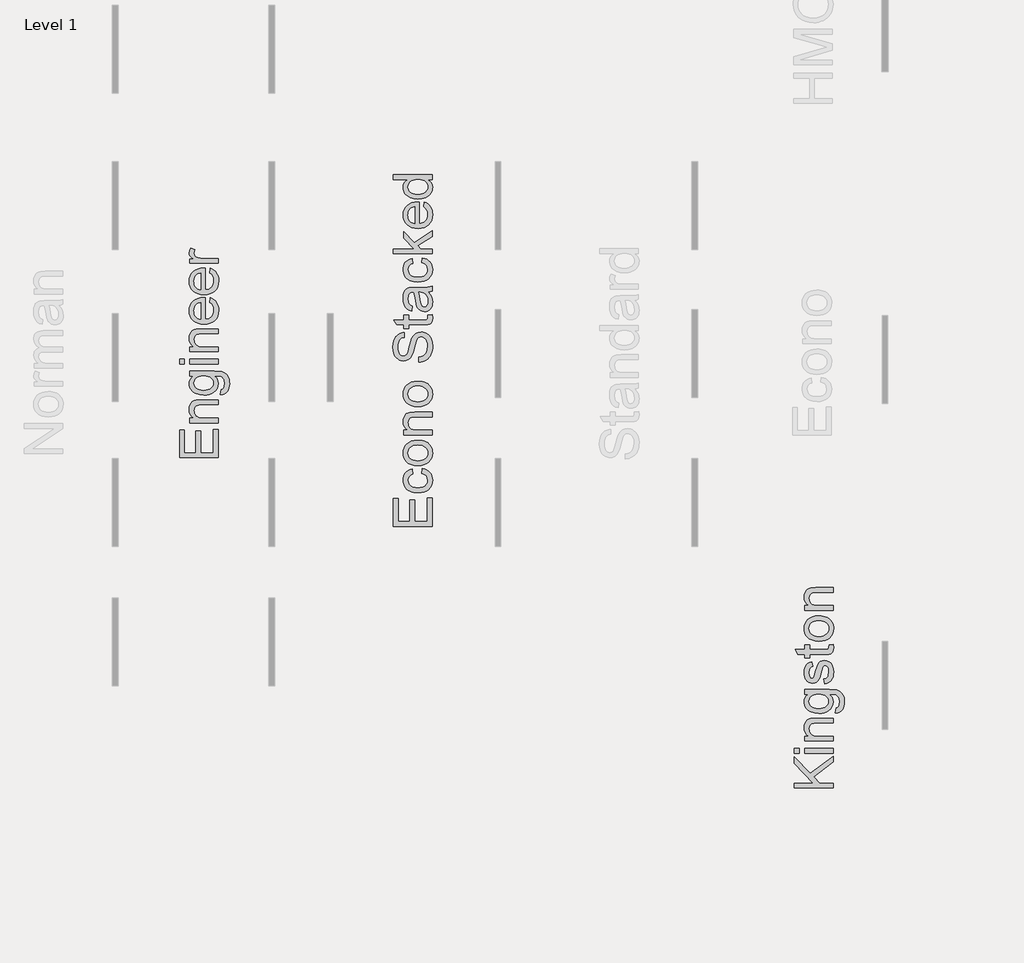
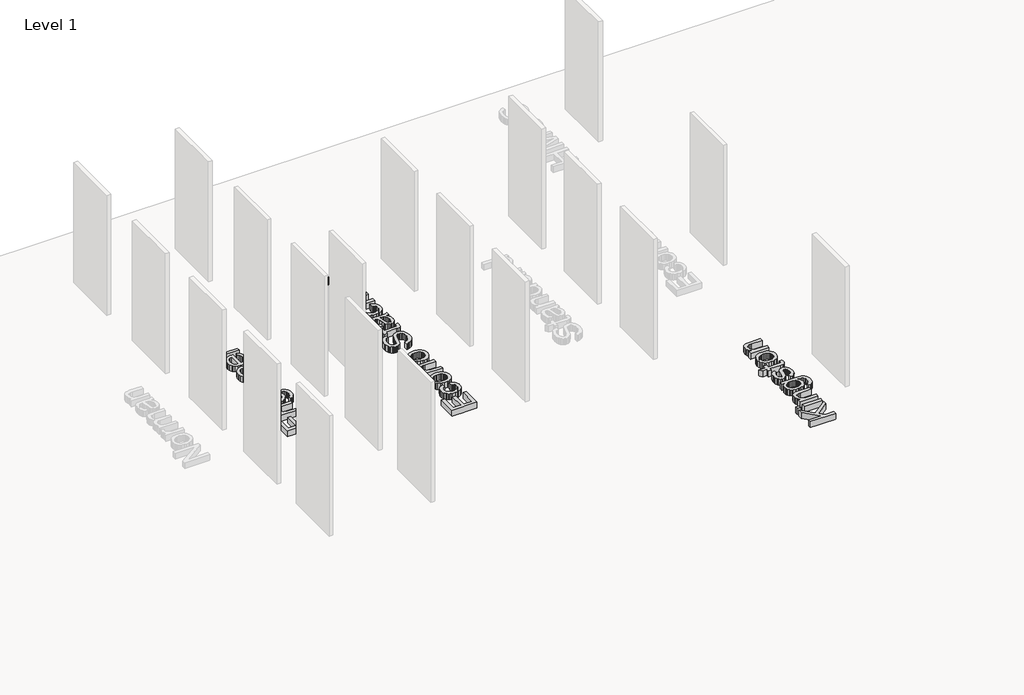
# One storey, part 4 of 6: 3 proxies.
"""IFC4 building model written with IfcOpenShell, lengths in millimetres."""

from ifc_helpers import new_model, si_unit, origin, origin_with_axes, place, context, project, spatial, polyline, outline, extrude, element, save

model = new_model("IFC4")

# Units and contexts
model_context = context("Model", 3, world=origin())
ifc_project = project(units=[si_unit("LENGTHUNIT", "METRE", prefix="MILLI")], contexts=[model_context])

# Site, building, storey
site = spatial("IfcSite", under=ifc_project)
building = spatial("IfcBuilding", under=site)
storey = spatial("IfcBuildingStorey", under=building, Name="Level 1", Elevation=0.0)

# Proxies
placement = place(None, origin())
element("IfcBuildingElementProxy", 1, Name="24\" Arial", ObjectType="24\" Arial", at=placement, inside=storey, context=model_context, shape_type="SweptSolid", body=[
    extrude(outline(polyline([(-83.6679361, 2891.7227033), (-683.8894746, 2891.7227033), (-683.8894746, 3323.131934), (-608.8617823, 3323.131934), (-608.8617823, 2966.7503956), (-430.671013, 2966.7503956), (-430.671013, 3304.3750109), (-355.6433207, 3304.3750109), (-355.6433207, 2966.7503956), (-158.6956284, 2966.7503956), (-158.6956284, 3332.5103956), (-83.6679361, 3332.5103956), (-83.6679361, 2891.7227033)])), origin_with_axes(), (0.0, 0.0, 1.0), 152.4),
    extrude(outline(polyline([(-243.1017823, 3717.0273186), (-233.7233207, 3792.0550109), (-198.3205443, 3783.8946504), (-166.9933688, 3771.1366456), (-139.7417943, 3753.7809965), (-116.5658207, 3731.8277033), (-98.0699193, 3706.2017898), (-84.8585611, 3677.8282802), (-76.9317462, 3646.7071744), (-74.2894746, 3612.8384725), (-77.9758327, 3570.7590374), (-89.0349073, 3533.0299629), (-107.4666981, 3499.6512489), (-133.2712053, 3470.6228956), (-165.9630202, 3447.1263691), (-205.0567342, 3430.3431359), (-250.5523472, 3420.273196), (-302.4498592, 3416.9165494), (-369.2164457, 3422.6498667), (-399.2614097, 3429.8165134), (-427.0808207, 3439.8498186), (-452.116001, 3452.8184725), (-473.8082726, 3468.7911648), (-492.1576356, 3487.7678956), (-507.16409, 3509.7486648), (-518.832215, 3533.7397585), (-527.16659, 3558.7474629), (-532.167215, 3584.7717778), (-533.83409, 3611.8127033), (-531.5444265, 3645.0998307), (-524.6754361, 3675.2089052), (-513.2271188, 3702.1399268), (-497.1994746, 3725.8928956), (-476.9588496, 3746.0648307), (-452.87159, 3762.2527513), (-424.9376957, 3774.4566576), (-393.1571669, 3782.6765494), (-383.7787053, 3707.6488571), (-416.5117342, 3694.0390975), (-439.9762053, 3672.8459725), (-454.0988496, 3645.2417898), (-458.8063976, 3612.3988571), (-456.4892582, 3586.9057441), (-449.53784, 3563.9129436), (-437.9521428, 3543.4204557), (-421.7321669, 3525.4282802), (-400.5024073, 3510.7790134), (-373.8873592, 3500.3152513), (-341.8870226, 3494.0369941), (-304.5013976, 3491.9442417), (-266.5525154, 3493.9912009), (-234.1812534, 3500.1320783), (-207.3876116, 3510.3668739), (-186.17159, 3524.6955879), (-170.0477799, 3542.3305759), (-158.5307726, 3562.4841936), (-151.6205683, 3585.1564412), (-149.3171669, 3610.3473186), (-155.0688015, 3649.1983283), (-162.2583448, 3665.9998787), (-172.3237053, 3681.0521263), (-185.3747871, 3693.933773), (-201.5214938, 3704.2235206), (-220.7638255, 3711.9213691), (-243.1017823, 3717.0273186)])), origin_with_axes(), (0.0, 0.0, 1.0), 152.4),
    extrude(outline(polyline([(-304.0617823, 3838.9473186), (-361.1476717, 3843.0046023), (-410.3388015, 3855.1764533), (-451.6351717, 3875.4628715), (-485.0367823, 3903.8638571), (-506.3856044, 3932.4571744), (-521.634763, 3964.0178956), (-530.7842582, 3998.5460206), (-533.83409, 4036.0415494), (-530.1202558, 4077.4340855), (-518.9787534, 4114.8609244), (-500.4095827, 4148.3220662), (-474.4127438, 4177.8175109), (-441.8674674, 4201.8910326), (-403.6529842, 4219.0864052), (-359.7692943, 4229.4036287), (-310.2163976, 4232.8427033), (-270.0557005, 4231.3223667), (-234.4193784, 4226.7613571), (-203.3074313, 4219.1596744), (-176.7198592, 4208.5173186), (-153.7545347, 4194.9670903), (-133.5093303, 4178.6417898), (-115.9842462, 4159.5414172), (-101.1792823, 4137.6659725), (-89.4149914, 4113.8672105), (-81.0119265, 4088.9968859), (-75.9700875, 4063.0549989), (-74.2894746, 4036.0415494), (-77.9895707, 3994.0445422), (-89.0898592, 3956.2696744), (-107.59034, 3922.716946), (-133.491013, 3893.3863571), (-166.352263, 3869.5692778), (-205.7344746, 3852.5570783), (-251.6376476, 3842.3497585), (-304.0617823, 3838.9473186)]), holes=[polyline([(-304.2083207, 3913.9750109), (-267.8164097, 3916.1456119), (-236.3060611, 3922.6574148), (-209.677275, 3933.5104196), (-187.9300515, 3948.7046263), (-171.0369145, 3967.1867898), (-158.970388, 3987.9036648), (-151.7304722, 4010.8552513), (-149.3171669, 4036.0415494), (-151.7442101, 4061.0996263), (-159.02534, 4083.9596263), (-171.1605563, 4104.6215494), (-188.1498592, 4123.0853956), (-210.1123111, 4138.2796023), (-237.1669746, 4149.1326071), (-269.3138496, 4155.64441), (-306.5529361, 4157.8150109), (-341.7908568, 4155.630672), (-372.4769265, 4149.0776552), (-398.6111452, 4138.1559605), (-420.193513, 4122.8655879), (-437.08665, 4104.3330518), (-449.1531765, 4083.6848667), (-456.3930924, 4060.9210326), (-458.8063976, 4036.0415494), (-456.402251, 4010.8552513), (-449.1898111, 3987.9036648), (-437.1690779, 3967.1867898), (-420.3400515, 3948.7046263), (-398.6569385, 3933.5104196), (-372.0739457, 3922.6574148), (-340.5910731, 3916.1456119), (-304.2083207, 3913.9750109)])]), origin_with_axes(), (0.0, 0.0, 1.0), 152.4),
    extrude(outline(polyline([(-83.6679361, 4317.2488571), (-524.4556284, 4317.2488571), (-524.4556284, 4392.2765494), (-462.9094746, 4392.2765494), (-493.9389938, 4418.3420783), (-516.1029361, 4449.6463571), (-529.4013015, 4486.1893859), (-533.83409, 4527.9711648), (-530.262215, 4564.953809), (-519.54659, 4598.8225109), (-503.0243784, 4627.0677994), (-482.0327438, 4647.1802033), (-456.626638, 4660.8265975), (-426.861013, 4669.6738571), (-354.3244746, 4673.6303956), (-83.6679361, 4673.6303956), (-83.6679361, 4598.6027033), (-344.2133207, 4598.6027033), (-383.0093784, 4596.4412609), (-410.5952438, 4589.956934), (-430.3596188, 4577.9957321), (-445.6912053, 4559.4036648), (-455.5275996, 4535.5728475), (-458.8063976, 4507.8953956), (-456.9655082, 4485.1132441), (-451.44284, 4463.9521744), (-442.2383928, 4444.4121864), (-429.3521669, 4426.4932802), (-411.3187775, 4411.5234605), (-386.67284, 4400.8307321), (-355.4143544, 4394.4150951), (-317.5433207, 4392.2765494), (-83.6679361, 4392.2765494), (-83.6679361, 4317.2488571)])), origin_with_axes(), (0.0, 0.0, 1.0), 152.4),
    extrude(outline(polyline([(-304.0617823, 4758.0365494), (-361.1476717, 4762.0938331), (-410.3388015, 4774.265684), (-451.6351717, 4794.5521023), (-485.0367823, 4822.9530879), (-506.3856044, 4851.5464052), (-521.634763, 4883.1071263), (-530.7842582, 4917.6352513), (-533.83409, 4955.1307802), (-530.1202558, 4996.5233162), (-518.9787534, 5033.9501552), (-500.4095827, 5067.411297), (-474.4127438, 5096.9067417), (-441.8674674, 5120.9802634), (-403.6529842, 5138.1756359), (-359.7692943, 5148.4928595), (-310.2163976, 5151.931934), (-270.0557005, 5150.4115975), (-234.4193784, 5145.8505879), (-203.3074313, 5138.2489052), (-176.7198592, 5127.6065494), (-153.7545347, 5114.056321), (-133.5093303, 5097.7310206), (-115.9842462, 5078.630648), (-101.1792823, 5056.7552033), (-89.4149914, 5032.9564412), (-81.0119265, 5008.0861167), (-75.9700875, 4982.1442297), (-74.2894746, 4955.1307802), (-77.9895707, 4913.133773), (-89.0898592, 4875.3589052), (-107.59034, 4841.8061768), (-133.491013, 4812.4755879), (-166.352263, 4788.6585085), (-205.7344746, 4771.646309), (-251.6376476, 4761.4389893), (-304.0617823, 4758.0365494)]), holes=[polyline([(-304.2083207, 4833.0642417), (-267.8164097, 4835.2348427), (-236.3060611, 4841.7466456), (-209.677275, 4852.5996504), (-187.9300515, 4867.7938571), (-171.0369145, 4886.2760206), (-158.970388, 4906.9928956), (-151.7304722, 4929.9444821), (-149.3171669, 4955.1307802), (-151.7442101, 4980.1888571), (-159.02534, 5003.0488571), (-171.1605563, 5023.7107802), (-188.1498592, 5042.1746263), (-210.1123111, 5057.3688331), (-237.1669746, 5068.2218379), (-269.3138496, 5074.7336408), (-306.5529361, 5076.9042417), (-341.7908568, 5074.7199028), (-372.4769265, 5068.1668859), (-398.6111452, 5057.2451912), (-420.193513, 5041.9548186), (-437.08665, 5023.4222826), (-449.1531765, 5002.7740975), (-456.3930924, 4980.0102634), (-458.8063976, 4955.1307802), (-456.402251, 4929.9444821), (-449.1898111, 4906.9928956), (-437.1690779, 4886.2760206), (-420.3400515, 4867.7938571), (-398.6569385, 4852.5996504), (-372.0739457, 4841.7466456), (-340.5910731, 4835.2348427), (-304.2083207, 4833.0642417)])]), origin_with_axes(), (0.0, 0.0, 1.0), 152.4),
    extrude(outline(polyline([(-289.99409, 5452.0427033), (-289.99409, 5527.0703956), (-248.3588496, 5535.6795302), (-214.8931284, 5551.2492417), (-188.3330323, 5575.5379917), (-167.4146669, 5610.3042417), (-153.8415419, 5652.8003956), (-149.3171669, 5700.2788571), (-152.7425034, 5742.0789533), (-163.018513, 5778.676934), (-179.2842823, 5808.3326552), (-200.6788976, 5829.3059725), (-225.2424073, 5841.780059), (-251.0148592, 5845.9380879), (-276.127888, 5842.8241456), (-297.8338976, 5833.4823186), (-316.3526957, 5814.5055879), (-331.90409, 5782.486934), (-360.5523592, 5673.2425109), (-379.5107726, 5601.5302513), (-397.5533207, 5555.6453956), (-422.7945707, 5518.2964052), (-453.3844746, 5491.8278956), (-488.6636092, 5476.0566936), (-527.9725515, 5470.7996263), (-550.3150875, 5472.4252874), (-571.9157726, 5477.3022706), (-592.7746068, 5485.4305759), (-612.89159, 5496.8102033), (-631.4470226, 5511.3129316), (-647.6212053, 5528.8105398), (-661.414138, 5549.3030278), (-672.8258207, 5572.7903956), (-688.1574073, 5625.5808763), (-693.2679361, 5684.0130879), (-687.9192823, 5747.3177033), (-671.8733207, 5802.7092417), (-659.9212775, 5826.9430398), (-645.459763, 5848.209434), (-628.4887775, 5866.5084244), (-609.0083207, 5881.8400109), (-587.5862294, 5894.0851311), (-564.79034, 5903.1247225), (-540.6206525, 5908.958785), (-515.0771669, 5911.5873186), (-515.0771669, 5836.5596263), (-539.017888, 5831.540684), (-559.8446669, 5822.7850109), (-577.5575034, 5810.2926071), (-592.1563976, 5794.0634725), (-603.5680803, 5773.7953715), (-611.7192823, 5749.1860686), (-616.6100034, 5720.2355638), (-618.2402438, 5686.9438571), (-616.6283207, 5652.5897465), (-611.7925515, 5623.2362609), (-603.7329361, 5598.8834004), (-592.4494746, 5579.5311648), (-578.8855082, 5564.7857321), (-563.9843784, 5554.2532802), (-547.7460851, 5547.933809), (-530.1706284, 5545.8273186), (-515.0496909, 5547.3201792), (-501.3391861, 5551.7987609), (-489.039114, 5559.2630638), (-478.1494746, 5569.7130879), (-467.8368303, 5586.1620302), (-457.4142823, 5612.0627033), (-436.2394746, 5692.2192417), (-416.1270707, 5774.9402033), (-398.57909, 5824.9830879), (-371.3595707, 5867.7540013), (-355.3594025, 5884.2899509), (-337.7656284, 5897.5928956), (-318.6698351, 5907.8185326), (-298.1636092, 5915.122559), (-252.9198592, 5920.9657802), (-229.4508087, 5919.2851672), (-206.6686573, 5914.2433283), (-184.5734049, 5905.8402634), (-163.1650515, 5894.0759725), (-143.2724553, 5879.1565254), (-125.7244746, 5861.2879917), (-110.5211092, 5840.4703715), (-97.6623592, 5816.7036648), (-87.4367222, 5790.6793499), (-80.1326957, 5763.0889052), (-74.2894746, 5703.2096263), (-75.864763, 5664.8302874), (-80.5906284, 5629.7022706), (-88.4670707, 5597.8255759), (-99.49409, 5569.2002033), (-113.6900034, 5543.6521384), (-131.0731284, 5521.0073667), (-151.643465, 5501.2658884), (-175.401013, 5484.4277033), (-201.5764457, 5470.8637369), (-229.4004361, 5460.9449148), (-258.8729842, 5454.6712369), (-289.99409, 5452.0427033)])), origin_with_axes(), (0.0, 0.0, 1.0), 152.4),
    extrude(outline(polyline([(-146.2398592, 6183.5627033), (-81.4698592, 6192.9411648), (-74.2894746, 6136.816934), (-77.4034169, 6100.8051071), (-86.7452438, 6073.951934), (-101.1426476, 6054.9752033), (-119.4233207, 6042.5927033), (-150.8191861, 6035.7786648), (-204.5621669, 6033.5073186), (-449.4279361, 6033.5073186), (-449.4279361, 5977.2365494), (-524.4556284, 5977.2365494), (-524.4556284, 6033.5073186), (-631.5752438, 6033.5073186), (-675.6833207, 6108.5350109), (-524.4556284, 6108.5350109), (-524.4556284, 6183.5627033), (-449.4279361, 6183.5627033), (-449.4279361, 6108.5350109), (-206.7602438, 6108.5350109), (-168.07409, 6112.4915494), (-154.3727438, 6125.3136648), (-150.5810611, 6136.1391936), (-149.3171669, 6150.8846263), (-146.2398592, 6183.5627033)])), origin_with_axes(), (0.0, 0.0, 1.0), 152.4),
    extrude(outline(polyline([(-139.9387053, 6539.9442417), (-109.202263, 6504.0972706), (-89.0898592, 6467.1878956), (-77.9895707, 6428.3735206), (-74.2894746, 6386.8115494), (-76.5150275, 6353.4053595), (-83.1916861, 6324.1114052), (-94.3194505, 6298.9296864), (-109.8983207, 6277.8602033), (-128.9391621, 6261.2235085), (-150.45284, 6249.3401552), (-174.4393544, 6242.2101432), (-200.8987053, 6239.8334725), (-232.0014938, 6243.4236648), (-260.2467823, 6254.1942417), (-284.4256284, 6270.8080398), (-303.32909, 6291.9278956), (-317.61659, 6316.7478475), (-327.9475515, 6344.461934), (-339.231013, 6409.3784725), (-351.1006284, 6486.0913571), (-365.0217823, 6539.5046263), (-381.7271669, 6539.9442417), (-415.2112053, 6534.7787609), (-427.6120226, 6528.32191), (-437.1187053, 6519.2823186), (-446.6070707, 6503.6576552), (-453.3844746, 6484.6259725), (-458.8063976, 6436.3415494), (-455.197888, 6391.6473186), (-444.3723592, 6360.4346263), (-424.3515419, 6339.1499148), (-393.1571669, 6324.2396263), (-402.5356284, 6249.211934), (-443.5663976, 6262.2355398), (-475.8048592, 6281.6702033), (-500.4599553, 6309.3293379), (-518.7406284, 6347.0263571), (-530.0607246, 6393.1310206), (-533.83409, 6446.0130879), (-530.50034, 6496.7337129), (-520.49909, 6536.9402033), (-505.4605803, 6567.2553475), (-487.0150515, 6588.301934), (-464.2100034, 6602.2597225), (-436.0929361, 6611.3084725), (-370.4437053, 6614.971934), (-277.0987053, 6614.971934), (-146.7527438, 6618.781934), (-114.5325996, 6624.4236648), (-83.6679361, 6633.7288571), (-83.6679361, 6558.7011648), (-109.7517823, 6546.6850109), (-139.9387053, 6539.9442417)]), holes=[polyline([(-289.99409, 6539.9442417), (-277.5016861, 6489.5350109), (-266.9875515, 6418.9034725), (-254.8248592, 6354.3532802), (-246.5088015, 6337.556309), (-235.0421669, 6325.1188571), (-221.3041861, 6317.4255879), (-206.17409, 6314.8611648), (-183.8636092, 6320.4479436), (-165.5829361, 6337.2082802), (-153.3836092, 6364.7758283), (-149.3171669, 6402.7842417), (-153.8049073, 6443.0823186), (-167.2681284, 6478.6911648), (-187.1057726, 6507.5592417), (-210.7167823, 6527.6350109), (-235.0421669, 6536.5372225), (-268.746013, 6539.5046263), (-289.99409, 6539.9442417)])]), origin_with_axes(), (0.0, 0.0, 1.0), 152.4),
    extrude(outline(polyline([(-243.1017823, 6999.4888571), (-233.7233207, 7074.5165494), (-198.3205443, 7066.3561888), (-166.9933688, 7053.598184), (-139.7417943, 7036.242535), (-116.5658207, 7014.2892417), (-98.0699193, 6988.6633283), (-84.8585611, 6960.2898186), (-76.9317462, 6929.1687129), (-74.2894746, 6895.3000109), (-77.9758327, 6853.2205759), (-89.0349073, 6815.4915013), (-107.4666981, 6782.1127874), (-133.2712053, 6753.084434), (-165.9630202, 6729.5879076), (-205.0567342, 6712.8046744), (-250.5523472, 6702.7347345), (-302.4498592, 6699.3780879), (-369.2164457, 6705.1114052), (-399.2614097, 6712.2780518), (-427.0808207, 6722.3113571), (-452.116001, 6735.2800109), (-473.8082726, 6751.2527033), (-492.1576356, 6770.229434), (-507.16409, 6792.2102033), (-518.832215, 6816.201297), (-527.16659, 6841.2090013), (-532.167215, 6867.2333162), (-533.83409, 6894.2742417), (-531.5444265, 6927.5613691), (-524.6754361, 6957.6704436), (-513.2271188, 6984.6014653), (-497.1994746, 7008.354434), (-476.9588496, 7028.5263691), (-452.87159, 7044.7142898), (-424.9376957, 7056.918196), (-393.1571669, 7065.1380879), (-383.7787053, 6990.1103956), (-416.5117342, 6976.5006359), (-439.9762053, 6955.3075109), (-454.0988496, 6927.7033283), (-458.8063976, 6894.8603956), (-456.4892582, 6869.3672826), (-449.53784, 6846.3744821), (-437.9521428, 6825.8819941), (-421.7321669, 6807.8898186), (-400.5024073, 6793.2405518), (-373.8873592, 6782.7767898), (-341.8870226, 6776.4985326), (-304.5013976, 6774.4057802), (-266.5525154, 6776.4527393), (-234.1812534, 6782.5936167), (-207.3876116, 6792.8284124), (-186.17159, 6807.1571263), (-170.0477799, 6824.7921143), (-158.5307726, 6844.9457321), (-151.6205683, 6867.6179797), (-149.3171669, 6892.8088571), (-155.0688015, 6931.6598667), (-162.2583448, 6948.4614172), (-172.3237053, 6963.5136648), (-185.3747871, 6976.3953114), (-201.5214938, 6986.685059), (-220.7638255, 6994.3829076), (-243.1017823, 6999.4888571)])), origin_with_axes(), (0.0, 0.0, 1.0), 152.4),
    extrude(outline(polyline([(-83.6679361, 7140.1657802), (-683.8894746, 7140.1657802), (-683.8894746, 7215.1934725), (-361.3583207, 7215.1934725), (-524.4556284, 7383.4196263), (-524.4556284, 7487.1688571), (-359.3067823, 7316.8911648), (-83.6679361, 7496.5473186), (-83.6679361, 7408.9173186), (-307.13909, 7263.1115494), (-260.6863976, 7215.1934725), (-83.6679361, 7215.1934725), (-83.6679361, 7140.1657802)])), origin_with_axes(), (0.0, 0.0, 1.0), 152.4),
    extrude(outline(polyline([(-214.9663976, 7870.8065494), (-205.5879361, 7944.3688571), (-176.1245467, 7933.0899749), (-150.159763, 7917.8637129), (-127.6935851, 7898.690071), (-108.726013, 7875.5690494), (-93.6600275, 7848.738773), (-82.8986092, 7818.4373667), (-76.4417582, 7784.6648307), (-74.2894746, 7747.4211648), (-78.0033087, 7700.8677273), (-89.1448111, 7659.388184), (-107.7139818, 7622.982535), (-133.7108207, 7591.6507802), (-166.4117943, 7566.4553234), (-205.0933688, 7548.4585686), (-249.7555443, 7537.6605158), (-300.3983207, 7534.0611648), (-352.7583448, 7537.6971504), (-398.9088015, 7548.6051071), (-438.8496909, 7566.785035), (-472.581013, 7592.236934), (-499.3792342, 7623.4862609), (-518.5208207, 7659.0584725), (-530.0057726, 7698.9535686), (-533.83409, 7743.1715494), (-530.0149313, 7785.9653595), (-518.5574553, 7824.6652513), (-499.4616621, 7859.2712249), (-472.7275515, 7889.7832802), (-439.0694986, 7914.6902393), (-399.2018784, 7932.4809244), (-353.1246909, 7943.1553355), (-300.8379361, 7946.7134725), (-280.6156284, 7946.2738571), (-280.6156284, 7609.0888571), (-250.675989, 7613.4346384), (-224.454763, 7622.0758283), (-201.9519505, 7635.0124268), (-183.1675515, 7652.244434), (-168.3580082, 7672.8193499), (-157.779763, 7695.7846744), (-151.4328159, 7721.1404076), (-149.3171669, 7748.8865494), (-153.2370707, 7788.8182802), (-164.9967823, 7822.4488571), (-185.3289938, 7849.7782802), (-214.9663976, 7870.8065494)]), holes=[polyline([(-355.6433207, 7609.0888571), (-355.6433207, 7871.6857802), (-395.2819746, 7861.5379917), (-410.8700034, 7852.8097946), (-423.6371669, 7841.6453956), (-439.0237053, 7821.1849629), (-450.01409, 7797.9036648), (-456.6083207, 7771.8015013), (-458.8063976, 7742.8784725), (-457.0525154, 7716.4969701), (-451.7908688, 7692.3043859), (-443.0214577, 7670.3007201), (-430.7442823, 7650.4859725), (-415.5271789, 7633.8584364), (-397.9379842, 7621.4164052), (-377.9766981, 7613.1598787), (-355.6433207, 7609.0888571)])]), origin_with_axes(), (0.0, 0.0, 1.0), 152.4),
    extrude(outline(polyline([(-83.6679361, 8293.7165494), (-154.446013, 8293.7165494), (-119.3775275, 8271.2686888), (-94.3286092, 8244.0766456), (-79.2992582, 8212.1404196), (-74.2894746, 8175.4600109), (-76.102888, 8150.6950109), (-81.5431284, 8126.9557802), (-90.6101957, 8104.2423186), (-103.30409, 8082.5546263), (-119.244727, 8062.5704436), (-138.0520226, 8044.9675109), (-159.725977, 8029.7458283), (-184.26659, 8016.9053956), (-211.2067702, 8006.7118138), (-240.0794265, 7999.430684), (-303.6221669, 7993.6057802), (-366.377263, 7998.9727513), (-423.051013, 8015.0736648), (-448.3014217, 8027.1447706), (-470.4195707, 8041.8902033), (-489.4054601, 8059.3099629), (-505.25909, 8079.4040494), (-517.7606525, 8101.4626672), (-526.69034, 8124.7760206), (-532.0481525, 8149.3441095), (-533.83409, 8175.166934), (-528.7235611, 8211.8748186), (-513.3919746, 8244.3330879), (-489.8908688, 8271.845684), (-460.2717823, 8293.7165494), (-683.8894746, 8293.7165494), (-683.8894746, 8368.7442417), (-83.6679361, 8368.7442417), (-83.6679361, 8293.7165494)]), holes=[polyline([(-303.9152438, 8068.6334725), (-267.5324914, 8070.7491215), (-236.0496188, 8077.0960686), (-209.466626, 8087.6743138), (-187.783513, 8102.4838571), (-170.9544866, 8120.1692177), (-158.9337534, 8139.3749148), (-151.7213135, 8160.1009484), (-149.3171669, 8182.3473186), (-151.6114097, 8204.6990134), (-158.494138, 8225.3014052), (-169.965352, 8244.1544941), (-186.0250515, 8261.2582802), (-206.8014577, 8275.458773), (-232.4227919, 8285.6019821), (-262.8890539, 8291.6879076), (-298.2002438, 8293.7165494), (-336.9138736, 8291.651273), (-370.1139938, 8285.4554436), (-397.8006044, 8275.1290614), (-419.9737053, 8260.6721263), (-436.9630082, 8243.1928355), (-449.0982246, 8223.7993859), (-456.3793544, 8202.4917778), (-458.8063976, 8179.2700109), (-456.4755202, 8156.5840254), (-449.482888, 8135.8579917), (-437.828501, 8117.09191), (-421.5123592, 8100.2857802), (-400.177275, 8086.4378956), (-373.4660611, 8076.5465494), (-341.3787174, 8070.6117417), (-303.9152438, 8068.6334725)])]), origin_with_axes(), (0.0, 0.0, 1.0), 152.4),
])
element("IfcBuildingElementProxy", 2, Name="24\" Arial", ObjectType="24\" Arial", at=placement, inside=storey, context=model_context, shape_type="SweptSolid", body=[
    extrude(outline(polyline([(-3415.2847706, 3961.8983359), (-4015.506309, 3961.8983359), (-4015.506309, 4393.3075667), (-3940.4786167, 4393.3075667), (-3940.4786167, 4036.9260283), (-3762.2878475, 4036.9260283), (-3762.2878475, 4374.5506436), (-3687.2601552, 4374.5506436), (-3687.2601552, 4036.9260283), (-3490.3124629, 4036.9260283), (-3490.3124629, 4402.6860283), (-3415.2847706, 4402.6860283), (-3415.2847706, 3961.8983359)])), origin_with_axes(), (0.0, 0.0, 1.0), 152.4),
    extrude(outline(polyline([(-3415.2847706, 4505.8491052), (-3856.0724629, 4505.8491052), (-3856.0724629, 4580.8767975), (-3794.526309, 4580.8767975), (-3825.5558282, 4606.9423263), (-3847.7197706, 4638.2466052), (-3861.0181359, 4674.789634), (-3865.4509244, 4716.5714129), (-3861.8790494, 4753.5540571), (-3851.1634244, 4787.422759), (-3834.6412129, 4815.6680475), (-3813.6495782, 4835.7804513), (-3788.2434725, 4849.4268456), (-3758.4778475, 4858.2741052), (-3685.941309, 4862.2306436), (-3415.2847706, 4862.2306436), (-3415.2847706, 4787.2029513), (-3675.8301552, 4787.2029513), (-3714.6262129, 4785.041509), (-3742.2120782, 4778.5571821), (-3761.9764532, 4766.5959802), (-3777.3080398, 4748.0039129), (-3787.144434, 4724.1730956), (-3790.4232321, 4696.4956436), (-3788.5823427, 4673.7134922), (-3783.0596744, 4652.5524225), (-3773.8552273, 4633.0124345), (-3760.9690013, 4615.0935283), (-3742.9356119, 4600.1237085), (-3718.2896744, 4589.4309802), (-3687.0311888, 4583.0153432), (-3649.1601552, 4580.8767975), (-3415.2847706, 4580.8767975), (-3415.2847706, 4505.8491052)])), origin_with_axes(), (0.0, 0.0, 1.0), 152.4),
    extrude(outline(polyline([(-3377.7709244, 4946.6367975), (-3368.3924629, 5021.6644898), (-3344.946309, 5029.9439129), (-3328.8270782, 5045.9898744), (-3316.2980398, 5077.5322783), (-3312.1216936, 5118.8194898), (-3316.847559, 5162.8542975), (-3322.7548907, 5180.6404033), (-3331.0251552, 5195.6056436), (-3353.7386167, 5218.3191052), (-3384.0720782, 5232.240259), (-3416.3471744, 5236.3067013), (-3471.5555398, 5237.3691052), (-3446.9370782, 5212.4026148), (-3429.3524629, 5184.5419898), (-3418.8016936, 5153.7872302), (-3415.2847706, 5120.1383359), (-3419.3786888, 5079.0022422), (-3431.6604436, 5042.7843456), (-3452.130035, 5011.484646), (-3480.7874629, 4985.1031436), (-3515.1690494, 4964.1710403), (-3552.8111167, 4949.2195379), (-3593.7136648, 4940.2486364), (-3637.8766936, 4937.2583359), (-3698.4520302, 4942.6253071), (-3754.1549629, 4958.7262206), (-3779.272571, 4970.6599465), (-3801.3586648, 4984.9932398), (-3820.4132441, 5001.7261004), (-3836.436309, 5020.8585283), (-3849.1302032, 5042.0837085), (-3858.1972706, 5065.0948263), (-3863.6375109, 5089.8918816), (-3865.4509244, 5116.4748744), (-3861.3478475, 5151.5616773), (-3849.0386167, 5183.4063167), (-3828.5232321, 5212.0087927), (-3799.8016936, 5237.3691052), (-3856.0724629, 5237.3691052), (-3856.0724629, 5312.3967975), (-3475.5120782, 5312.3967975), (-3387.6439532, 5307.2679513), (-3354.961297, 5300.8568936), (-3329.7795782, 5291.8814129), (-3309.4702633, 5280.1262807), (-3291.4048186, 5265.3762686), (-3275.5832441, 5247.6313768), (-3262.0055398, 5226.8916052), (-3251.1067417, 5203.3676028), (-3243.3218859, 5177.2700186), (-3238.6509725, 5148.5988528), (-3237.0940013, 5117.3541052), (-3239.2874989, 5080.595848), (-3245.8679917, 5047.5468456), (-3256.8354797, 5018.207098), (-3272.1899629, 4992.5766052), (-3291.9497585, 4971.8734682), (-3316.133184, 4957.3157879), (-3344.7402393, 4948.9035643), (-3377.7709244, 4946.6367975)]), holes=[polyline([(-3643.0055398, 5012.2860283), (-3605.9084124, 5014.2871941), (-3574.1874148, 5020.2906917), (-3547.842547, 5030.296521), (-3526.873809, 5044.3046821), (-3510.8782201, 5061.3351989), (-3499.4527994, 5080.4080956), (-3492.597547, 5101.523372), (-3490.3124629, 5124.6810283), (-3492.583809, 5147.6097182), (-3499.3978475, 5168.6242494), (-3510.7545782, 5187.724622), (-3526.6540013, 5204.9108359), (-3547.4166696, 5219.1113287), (-3573.3631359, 5229.2545379), (-3604.4934004, 5235.3404634), (-3640.8074629, 5237.3691052), (-3675.6057682, 5235.2809321), (-3705.8522225, 5229.0164129), (-3731.5468258, 5218.5755475), (-3752.6895782, 5203.9583359), (-3769.1980518, 5186.4011965), (-3780.9898186, 5167.1405475), (-3788.0648787, 5146.1763888), (-3790.4232321, 5123.5087206), (-3788.1015133, 5101.2211364), (-3781.1363571, 5080.6645379), (-3769.5277633, 5061.8389249), (-3753.2757321, 5044.7442975), (-3732.4535326, 5030.5438047), (-3707.134434, 5020.4005956), (-3677.3184364, 5014.3146701), (-3643.0055398, 5012.2860283)])]), origin_with_axes(), (0.0, 0.0, 1.0), 152.4),
    extrude(outline(polyline([(-3940.4786167, 5424.9383359), (-4015.506309, 5424.9383359), (-4015.506309, 5499.9660283), (-3940.4786167, 5499.9660283), (-3940.4786167, 5424.9383359)])), origin_with_axes(), (0.0, 0.0, 1.0), 152.4),
    extrude(outline(polyline([(-3415.2847706, 5424.9383359), (-3856.0724629, 5424.9383359), (-3856.0724629, 5499.9660283), (-3415.2847706, 5499.9660283), (-3415.2847706, 5424.9383359)])), origin_with_axes(), (0.0, 0.0, 1.0), 152.4),
    extrude(outline(polyline([(-3415.2847706, 5612.5075667), (-3856.0724629, 5612.5075667), (-3856.0724629, 5687.535259), (-3794.526309, 5687.535259), (-3825.5558282, 5713.6007879), (-3847.7197706, 5744.9050667), (-3861.0181359, 5781.4480956), (-3865.4509244, 5823.2298744), (-3861.8790494, 5860.2125186), (-3851.1634244, 5894.0812206), (-3834.6412129, 5922.326509), (-3813.6495782, 5942.4389129), (-3788.2434725, 5956.0853071), (-3758.4778475, 5964.9325667), (-3685.941309, 5968.8891052), (-3415.2847706, 5968.8891052), (-3415.2847706, 5893.8614129), (-3675.8301552, 5893.8614129), (-3714.6262129, 5891.6999706), (-3742.2120782, 5885.2156436), (-3761.9764532, 5873.2544417), (-3777.3080398, 5854.6623744), (-3787.144434, 5830.8315571), (-3790.4232321, 5803.1541052), (-3788.5823427, 5780.3719537), (-3783.0596744, 5759.210884), (-3773.8552273, 5739.670896), (-3760.9690013, 5721.7519898), (-3742.9356119, 5706.7821701), (-3718.2896744, 5696.0894417), (-3687.0311888, 5689.6738047), (-3649.1601552, 5687.535259), (-3415.2847706, 5687.535259), (-3415.2847706, 5612.5075667)])), origin_with_axes(), (0.0, 0.0, 1.0), 152.4),
    extrude(outline(polyline([(-3546.5832321, 6380.6621821), (-3537.2047706, 6454.2244898), (-3507.7413811, 6442.9456076), (-3481.7765975, 6427.7193456), (-3459.3104196, 6408.5457037), (-3440.3428475, 6385.4246821), (-3425.2768619, 6358.5944057), (-3414.5154436, 6328.2929994), (-3408.0585927, 6294.5204634), (-3405.906309, 6257.2767975), (-3409.6201432, 6210.72336), (-3420.7616456, 6169.2438167), (-3439.3308162, 6132.8381677), (-3465.3276552, 6101.5064129), (-3498.0286287, 6076.3109561), (-3536.7102032, 6058.3142013), (-3581.3723787, 6047.5161484), (-3632.0151552, 6043.9167975), (-3684.3751792, 6047.5527831), (-3730.5256359, 6058.4607398), (-3770.4665254, 6076.6406677), (-3804.1978475, 6102.0925667), (-3830.9960686, 6133.3418936), (-3850.1376552, 6168.9141052), (-3861.6226071, 6208.8092013), (-3865.4509244, 6253.0271821), (-3861.6317657, 6295.8209922), (-3850.1742898, 6334.520884), (-3831.0784965, 6369.1268576), (-3804.3443859, 6399.6389129), (-3770.6863331, 6424.545872), (-3730.8187129, 6442.3365571), (-3684.7415254, 6453.0109682), (-3632.4547706, 6456.5691052), (-3612.2324629, 6456.1294898), (-3612.2324629, 6118.9444898), (-3582.2928234, 6123.290271), (-3556.0715975, 6131.9314609), (-3533.568785, 6144.8680595), (-3514.7843859, 6162.1000667), (-3499.9748427, 6182.6749826), (-3489.3965975, 6205.6403071), (-3483.0496504, 6230.9960403), (-3480.9340013, 6258.7421821), (-3484.8539052, 6298.6739129), (-3496.6136167, 6332.3044898), (-3516.9458282, 6359.6339129), (-3546.5832321, 6380.6621821)]), holes=[polyline([(-3687.2601552, 6118.9444898), (-3687.2601552, 6381.5414129), (-3726.898809, 6371.3936244), (-3742.4868379, 6362.6654273), (-3755.2540013, 6351.5010283), (-3770.6405398, 6331.0405956), (-3781.6309244, 6307.7592975), (-3788.2251552, 6281.657134), (-3790.4232321, 6252.7341052), (-3788.6693499, 6226.3526028), (-3783.4077032, 6202.1600186), (-3774.6382922, 6180.1563528), (-3762.3611167, 6160.3416052), (-3747.1440133, 6143.7140691), (-3729.5548186, 6131.2720379), (-3709.5935326, 6123.0155114), (-3687.2601552, 6118.9444898)])]), origin_with_axes(), (0.0, 0.0, 1.0), 152.4),
    extrude(outline(polyline([(-3546.5832321, 6840.2067975), (-3537.2047706, 6913.7691052), (-3507.7413811, 6902.490223), (-3481.7765975, 6887.2639609), (-3459.3104196, 6868.0903191), (-3440.3428475, 6844.9692975), (-3425.2768619, 6818.139021), (-3414.5154436, 6787.8376148), (-3408.0585927, 6754.0650787), (-3405.906309, 6716.8214129), (-3409.6201432, 6670.2679754), (-3420.7616456, 6628.7884321), (-3439.3308162, 6592.3827831), (-3465.3276552, 6561.0510283), (-3498.0286287, 6535.8555715), (-3536.7102032, 6517.8588167), (-3581.3723787, 6507.0607638), (-3632.0151552, 6503.4614129), (-3684.3751792, 6507.0973984), (-3730.5256359, 6518.0053552), (-3770.4665254, 6536.1852831), (-3804.1978475, 6561.6371821), (-3830.9960686, 6592.886509), (-3850.1376552, 6628.4587206), (-3861.6226071, 6668.3538167), (-3865.4509244, 6712.5717975), (-3861.6317657, 6755.3656076), (-3850.1742898, 6794.0654994), (-3831.0784965, 6828.671473), (-3804.3443859, 6859.1835283), (-3770.6863331, 6884.0904874), (-3730.8187129, 6901.8811725), (-3684.7415254, 6912.5555835), (-3632.4547706, 6916.1137206), (-3612.2324629, 6915.6741052), (-3612.2324629, 6578.4891052), (-3582.2928234, 6582.8348864), (-3556.0715975, 6591.4760763), (-3533.568785, 6604.4126749), (-3514.7843859, 6621.6446821), (-3499.9748427, 6642.219598), (-3489.3965975, 6665.1849225), (-3483.0496504, 6690.5406557), (-3480.9340013, 6718.2867975), (-3484.8539052, 6758.2185283), (-3496.6136167, 6791.8491052), (-3516.9458282, 6819.1785283), (-3546.5832321, 6840.2067975)]), holes=[polyline([(-3687.2601552, 6578.4891052), (-3687.2601552, 6841.0860283), (-3726.898809, 6830.9382398), (-3742.4868379, 6822.2100427), (-3755.2540013, 6811.0456436), (-3770.6405398, 6790.5852109), (-3781.6309244, 6767.3039129), (-3788.2251552, 6741.2017494), (-3790.4232321, 6712.2787206), (-3788.6693499, 6685.8972182), (-3783.4077032, 6661.704634), (-3774.6382922, 6639.7009682), (-3762.3611167, 6619.8862206), (-3747.1440133, 6603.2586845), (-3729.5548186, 6590.8166533), (-3709.5935326, 6582.5601268), (-3687.2601552, 6578.4891052)])]), origin_with_axes(), (0.0, 0.0, 1.0), 152.4),
    extrude(outline(polyline([(-3415.2847706, 6991.1414129), (-3856.0724629, 6991.1414129), (-3856.0724629, 7056.7906436), (-3790.8628475, 7056.7906436), (-3828.6697706, 7081.042759), (-3850.9436167, 7103.3898744), (-3861.8240975, 7125.810259), (-3865.4509244, 7150.2821821), (-3859.6626552, 7187.6494898), (-3842.2978475, 7225.6029513), (-3775.0366936, 7200.5448744), (-3786.5765975, 7174.1679513), (-3790.4232321, 7147.7910283), (-3786.7231359, 7125.3889609), (-3775.6228475, 7105.3681436), (-3757.9649629, 7089.1939609), (-3734.5920782, 7078.3317975), (-3692.6820782, 7069.2097783), (-3646.9620782, 7066.1691052), (-3415.2847706, 7066.1691052), (-3415.2847706, 6991.1414129)])), origin_with_axes(), (0.0, 0.0, 1.0), 152.4),
])
element("IfcBuildingElementProxy", 3, Name="24\" Arial", ObjectType="24\" Arial", at=placement, inside=storey, context=model_context, shape_type="SweptSolid", body=[
    extrude(outline(polyline([(6161.5931257, -1185.2844837), (5561.3715873, -1185.2844837), (5561.3715873, -1110.2567914), (5855.1812026, -1110.2567914), (5561.3715873, -802.5260222), (5561.3715873, -697.6044837), (5808.1423565, -955.9517914), (6161.5931257, -688.2260222), (6161.5931257, -779.9590991), (5858.8446642, -1009.145253), (5955.2669719, -1110.2567914), (6161.5931257, -1110.2567914), (6161.5931257, -1185.2844837)])), origin_with_axes(), (0.0, 0.0, 1.0), 152.4),
    extrude(outline(polyline([(5636.3992796, -641.3337145), (5561.3715873, -641.3337145), (5561.3715873, -566.3060222), (5636.3992796, -566.3060222), (5636.3992796, -641.3337145)])), origin_with_axes(), (0.0, 0.0, 1.0), 152.4),
    extrude(outline(polyline([(6161.5931257, -641.3337145), (5720.8054334, -641.3337145), (5720.8054334, -566.3060222), (6161.5931257, -566.3060222), (6161.5931257, -641.3337145)])), origin_with_axes(), (0.0, 0.0, 1.0), 152.4),
    extrude(outline(polyline([(6161.5931257, -453.7644837), (5720.8054334, -453.7644837), (5720.8054334, -378.7367914), (5782.3515873, -378.7367914), (5751.322068, -352.6712626), (5729.1581257, -321.3669837), (5715.8597603, -284.8239549), (5711.4269719, -243.042176), (5714.9988469, -206.0595318), (5725.7144719, -172.1908299), (5742.2366834, -143.9455414), (5763.228318, -123.8331376), (5788.6344238, -110.1867433), (5818.4000488, -101.3394837), (5890.9365873, -97.3829453), (6161.5931257, -97.3829453), (6161.5931257, -172.4106376), (5901.0477411, -172.4106376), (5862.2516834, -174.5720799), (5834.665818, -181.0564068), (5814.901443, -193.0176087), (5799.5698565, -211.609676), (5789.7334623, -235.4404933), (5786.4546642, -263.1179453), (5788.2955536, -285.9000967), (5793.8182219, -307.0611664), (5803.022669, -326.6011544), (5815.908895, -344.5200606), (5833.9422844, -359.4898804), (5858.5882219, -370.1826087), (5889.8467075, -376.5982457), (5927.7177411, -378.7367914), (6161.5931257, -378.7367914), (6161.5931257, -453.7644837)])), origin_with_axes(), (0.0, 0.0, 1.0), 152.4),
    extrude(outline(polyline([(6199.1069719, -12.9767914), (6208.4854334, 62.0509009), (6231.9315873, 70.330324), (6248.050818, 86.3762855), (6260.5798565, 117.9186894), (6264.7562026, 159.2059009), (6260.0303373, 203.2407086), (6254.1230055, 221.0268144), (6245.8527411, 235.9920547), (6223.1392796, 258.7055163), (6192.805818, 272.6266701), (6160.5307219, 276.6931124), (6105.3223565, 277.7555163), (6129.940818, 252.7890259), (6147.5254334, 224.9284009), (6158.0762026, 194.1736413), (6161.5931257, 160.524747), (6157.4992075, 119.3886533), (6145.2174526, 83.1707567), (6124.7478613, 51.8710571), (6096.0904334, 25.4895547), (6061.7088469, 4.5574514), (6024.0667796, -10.394051), (5983.1642315, -19.3649525), (5939.0012026, -22.355253), (5878.4258661, -16.9882818), (5822.7229334, -0.8873683), (5797.6053252, 11.0463576), (5775.5192315, 25.3796509), (5756.4646522, 42.1125115), (5740.4415873, 61.2449394), (5727.747693, 82.4701196), (5718.6806257, 105.4812374), (5713.2403853, 130.2782927), (5711.4269719, 156.8612855), (5715.5300488, 191.9480884), (5727.8392796, 223.7927278), (5748.3546642, 252.3952038), (5777.0762026, 277.7555163), (5720.8054334, 277.7555163), (5720.8054334, 352.7832086), (6101.365818, 352.7832086), (6189.233943, 347.6543624), (6221.9165993, 341.2433047), (6247.098318, 332.267824), (6267.4076329, 320.5126918), (6285.4730776, 305.7626797), (6301.2946522, 288.0177879), (6314.8723565, 267.2780163), (6325.7711546, 243.7540139), (6333.5560103, 217.6564297), (6338.2269238, 188.9852639), (6339.783895, 157.7405163), (6337.5903974, 120.9822591), (6331.0099046, 87.9332567), (6320.0424166, 58.5935091), (6304.6879334, 32.9630163), (6284.9281377, 12.2598793), (6260.7447123, -2.297801), (6232.137657, -10.7100246), (6199.1069719, -12.9767914)]), holes=[polyline([(5933.8723565, 52.6724394), (5970.9694839, 54.6736052), (6002.6904815, 60.6771028), (6029.0353493, 70.6829321), (6050.0040873, 84.6910932), (6065.9996762, 101.72161), (6077.4250969, 120.7945067), (6084.2803493, 141.9097831), (6086.5654334, 165.0674394), (6084.2940873, 187.9961293), (6077.4800488, 209.0106605), (6066.123318, 228.1110331), (6050.223895, 245.297247), (6029.4612267, 259.4977398), (6003.5147603, 269.640949), (5972.3844959, 275.7268744), (5936.0704334, 277.7555163), (5901.2721281, 275.6673432), (5871.0256738, 269.402824), (5845.3310704, 258.9619586), (5824.188318, 244.344747), (5807.6798445, 226.7876076), (5795.8880776, 207.5269586), (5788.8130175, 186.5627999), (5786.4546642, 163.8951317), (5788.7763829, 141.6075475), (5795.7415392, 121.050949), (5807.3501329, 102.225336), (5823.6021642, 85.1307086), (5844.4243637, 70.9302158), (5869.7434623, 60.7870067), (5899.5594599, 54.7010812), (5933.8723565, 52.6724394)])]), origin_with_axes(), (0.0, 0.0, 1.0), 152.4),
    extrude(outline(polyline([(6030.2946642, 437.1893624), (6020.9162026, 512.2170547), (6038.024568, 516.7505884), (6053.0081257, 524.0500355), (6065.8668757, 534.1153961), (6076.600818, 546.9466701), (6085.0634142, 562.5804922), (6091.1081257, 581.053497), (6095.943895, 626.5170547), (6091.5111065, 671.4310932), (6085.9701209, 688.8874874), (6078.2127411, 703.0101317), (6058.9429334, 721.6937855), (6048.1540392, 726.364699), (6036.595818, 727.9216701), (6026.4663469, 726.3555403), (6017.4725488, 721.6571509), (6002.8919719, 702.8635932), (5993.3669719, 674.7648432), (5981.4973565, 625.637824), (5961.6963469, 557.1677278), (5944.7894719, 512.6566701), (5926.343943, 484.0633528), (5901.9269719, 463.3464778), (5873.0955296, 450.7624874), (5841.4065873, 446.567824), (5812.33702, 449.9382086), (5785.5021642, 460.0493624), (5761.9644238, 475.9854201), (5742.7862026, 496.8305163), (5730.7150969, 517.5473913), (5720.5856257, 544.5287855), (5713.7166353, 575.7231605), (5711.4269719, 609.0789778), (5715.1087507, 657.9129201), (5726.1540873, 700.3724394), (5743.4822603, 734.5159009), (5766.0125488, 758.4016701), (5795.4118276, 774.227824), (5833.3469719, 784.1924394), (5842.7254334, 709.164747), (5819.1144238, 699.694699), (5801.328318, 680.9560932), (5790.1730776, 652.7657567), (5786.4546642, 614.9405163), (5790.0082219, 571.8582086), (5800.668895, 543.1366701), (5816.0554334, 526.9808047), (5833.7865873, 521.5955163), (5845.3264911, 523.8302278), (5855.620818, 530.5343624), (5864.8161065, 542.000997), (5872.1796642, 558.5232086), (5888.1523565, 623.1466701), (5923.4681257, 733.270324), (5940.3566834, 762.3582086), (5963.4731257, 784.412247), (5992.8907219, 798.3150836), (6028.6827411, 802.9493624), (6065.6837026, 797.509122), (6100.4865873, 781.1884009), (6130.3621161, 754.6099874), (6152.5810103, 718.3966701), (6166.373943, 674.6549394), (6170.9715873, 625.4912855), (6168.755193, 585.1107807), (6162.1060103, 549.8408047), (6151.0240392, 519.6813576), (6135.5092796, 494.6324394), (6115.6350007, 474.1720067), (6091.4744719, 457.7780163), (6063.027693, 445.4504682), (6030.2946642, 437.1893624)])), origin_with_axes(), (0.0, 0.0, 1.0), 152.4),
    extrude(outline(polyline([(6099.0212026, 1046.7893624), (6163.7912026, 1056.167824), (6170.9715873, 1000.0435932), (6167.857645, 964.0317663), (6158.515818, 937.1785932), (6144.1184142, 918.2018624), (6125.8377411, 905.8193624), (6094.4418757, 899.005324), (6040.698895, 896.7339778), (5795.8331257, 896.7339778), (5795.8331257, 840.4632086), (5720.8054334, 840.4632086), (5720.8054334, 896.7339778), (5613.685818, 896.7339778), (5569.5777411, 971.7616701), (5720.8054334, 971.7616701), (5720.8054334, 1046.7893624), (5795.8331257, 1046.7893624), (5795.8331257, 971.7616701), (6038.500818, 971.7616701), (6077.1869719, 975.7182086), (6090.888318, 988.540324), (6094.6800007, 999.3658528), (6095.943895, 1014.1112855), (6099.0212026, 1046.7893624)])), origin_with_axes(), (0.0, 0.0, 1.0), 152.4),
    extrude(outline(polyline([(5941.1992796, 1103.0601317), (5884.1133901, 1107.1174153), (5834.9222603, 1119.2892663), (5793.6258901, 1139.5756845), (5760.2242796, 1167.9766701), (5738.8754575, 1196.5699874), (5723.6262988, 1228.1307086), (5714.4768036, 1262.6588336), (5711.4269719, 1300.1543624), (5715.140806, 1341.5468985), (5726.2823084, 1378.9737374), (5744.8514791, 1412.4348793), (5770.848318, 1441.930324), (5803.3935945, 1466.0038456), (5841.6080776, 1483.1992182), (5885.4917675, 1493.5164418), (5935.0446642, 1496.9555163), (5975.2053613, 1495.4351797), (6010.8416834, 1490.8741701), (6041.9536305, 1483.2724874), (6068.5412026, 1472.6301317), (6091.5065272, 1459.0799033), (6111.7517315, 1442.7546028), (6129.2768156, 1423.6542302), (6144.0817796, 1401.7787855), (6155.8460704, 1377.9800235), (6164.2491353, 1353.109699), (6169.2909743, 1327.1678119), (6170.9715873, 1300.1543624), (6167.2714911, 1258.1573552), (6156.1712026, 1220.3824874), (6137.6707219, 1186.8297591), (6111.7700488, 1157.4991701), (6078.9087988, 1133.6820908), (6039.5265873, 1116.6698913), (5993.6234142, 1106.4625716), (5941.1992796, 1103.0601317)]), holes=[polyline([(5941.0527411, 1178.087824), (5977.4446522, 1180.2584249), (6008.9550007, 1186.7702278), (6035.5837868, 1197.6232326), (6057.3310103, 1212.8174394), (6074.2241474, 1231.2996028), (6086.2906738, 1252.0164778), (6093.5305897, 1274.9680644), (6095.943895, 1300.1543624), (6093.5168517, 1325.2124394), (6086.2357219, 1348.0724394), (6074.1005055, 1368.7343624), (6057.1112026, 1387.1982086), (6035.1487507, 1402.3924153), (6008.0940873, 1413.2454201), (5975.9472123, 1419.757223), (5938.7081257, 1421.927824), (5903.470205, 1419.743485), (5872.7841353, 1413.1904682), (5846.6499166, 1402.2687735), (5825.0675488, 1386.9784009), (5808.1744118, 1368.4458648), (5796.1078853, 1347.7976797), (5788.8679695, 1325.0338456), (5786.4546642, 1300.1543624), (5788.8588108, 1274.9680644), (5796.0712507, 1252.0164778), (5808.0919839, 1231.2996028), (5824.9210103, 1212.8174394), (5846.6041233, 1197.6232326), (5873.1871161, 1186.7702278), (5904.6699887, 1180.2584249), (5941.0527411, 1178.087824)])]), origin_with_axes(), (0.0, 0.0, 1.0), 152.4),
    extrude(outline(polyline([(6161.5931257, 1581.3616701), (5720.8054334, 1581.3616701), (5720.8054334, 1656.3893624), (5782.3515873, 1656.3893624), (5751.322068, 1682.4548913), (5729.1581257, 1713.7591701), (5715.8597603, 1750.302199), (5711.4269719, 1792.0839778), (5714.9988469, 1829.066622), (5725.7144719, 1862.935324), (5742.2366834, 1891.1806124), (5763.228318, 1911.2930163), (5788.6344238, 1924.9394105), (5818.4000488, 1933.7866701), (5890.9365873, 1937.7432086), (6161.5931257, 1937.7432086), (6161.5931257, 1862.7155163), (5901.0477411, 1862.7155163), (5862.2516834, 1860.554074), (5834.665818, 1854.069747), (5814.901443, 1842.1085451), (5799.5698565, 1823.5164778), (5789.7334623, 1799.6856605), (5786.4546642, 1772.0082086), (5788.2955536, 1749.2260571), (5793.8182219, 1728.0649874), (5803.022669, 1708.5249994), (5815.908895, 1690.6060932), (5833.9422844, 1675.6362735), (5858.5882219, 1664.9435451), (5889.8467075, 1658.5279081), (5927.7177411, 1656.3893624), (6161.5931257, 1656.3893624), (6161.5931257, 1581.3616701)])), origin_with_axes(), (0.0, 0.0, 1.0), 152.4),
])

save(model, "model.ifc")
